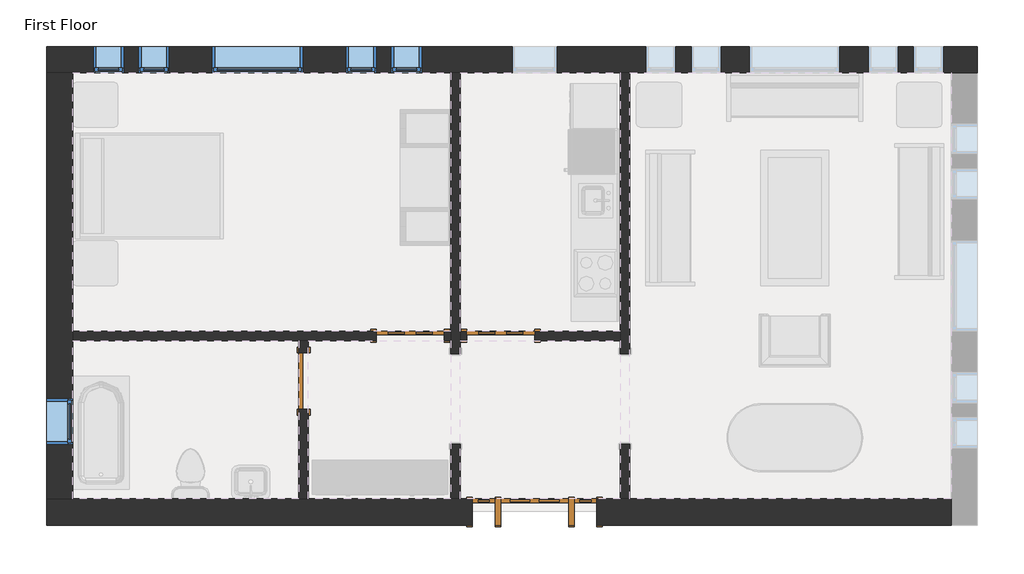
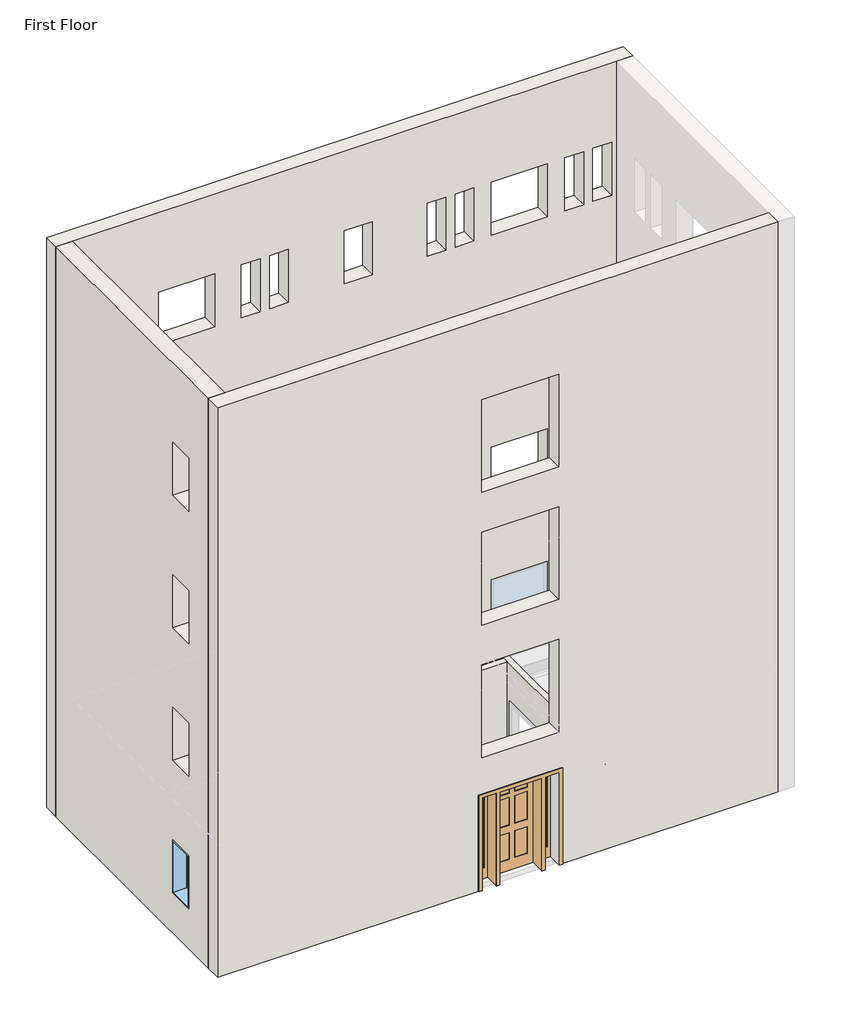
# One storey, part 1 of 2: 8 walls, 6 windows, 4 doors.
"""IFC4 building model written with IfcOpenShell, lengths in millimetres."""

from ifc_helpers import new_model, si_unit, frame, origin, place, context, project, spatial, polyline, outline, extrude, faceted_brep, transform, mapped, element, save
from components import door_829da954, door_2e3b4da2, door_4d6c7550, door_dba5aa2e, window_da97879f, window_d61ef850, window_60baf983, window_6eb97611

model = new_model("IFC4")

# Units and contexts
model_context = context("Model", 3, world=origin())
ifc_project = project(units=[si_unit("LENGTHUNIT", "METRE", prefix="MILLI")], contexts=[model_context])

# Site, building, storey
site = spatial("IfcSite", under=ifc_project)
building = spatial("IfcBuilding", under=site)
storey = spatial("IfcBuildingStorey", under=building, Name="First Floor", Elevation=0.0)

# Doors
placement = place(None, origin())
door_shape = door_829da954(model_context)
element("IfcDoor", 1, ObjectType="Single-Decorative 2 : 36\" x 84\"", at=placement, inside=storey, context=model_context, shape_type="MappedRepresentation", body=[
    mapped(door_shape, transform((-5449.8589563, 6723.5441867, 0.0), x_axis=(-1.0, 0.0, 0.0), y_axis=(0.0, -1.0, 0.0), z_axis=(0.0, 0.0, 1.0))),
])
door_2_shape = door_2e3b4da2(model_context)
element("IfcDoor", 2, ObjectType="Single-Decorative 2 : 36\" x 84\"", at=placement, inside=storey, context=model_context, shape_type="MappedRepresentation", body=[
    mapped(door_2_shape, transform((-6669.0589563, 6723.5441867, 0.0), x_axis=(1.0, 0.0, 0.0), y_axis=(0.0, 1.0, 0.0), z_axis=(0.0, 0.0, 1.0))),
])
door_3_shape = door_4d6c7550(model_context)
element("IfcDoor", 3, ObjectType="Single-Flush : 30\" x 84\"", at=placement, inside=storey, context=model_context, shape_type="MappedRepresentation", body=[
    mapped(door_3_shape, transform((-8105.7464563, 6113.9441867, 0.0), x_axis=(0.0, 1.0, 0.0), y_axis=(-1.0, 0.0, 0.0), z_axis=(0.0, 0.0, 1.0))),
])
door_4_shape = door_dba5aa2e(model_context)
element("IfcDoor", 4, ObjectType="Single-Raised Panel with Sidelights : 36\" x 84\"", at=placement, inside=storey, context=model_context, shape_type="MappedRepresentation", body=[
    mapped(door_4_shape, transform((-4992.6589563, 4350.2316867, 0.0), x_axis=(-1.0, 0.0, 0.0), y_axis=(0.0, -1.0, 0.0), z_axis=(0.0, 0.0, 1.0))),
])

# Walls
element("IfcWall", 5, ObjectType="Exterior - Brick on Mtl. Stud", at=placement, inside=storey, context=model_context, shape_type="Brep", body=[
    faceted_brep([(-11569.6714563, 10270.0191867, 13106.4), (-11217.2464563, 10270.0191867, 13106.4), (622.3285437, 10270.0191867, 13106.4), (974.7535437, 10270.0191867, 13106.4), (974.7535437, 10622.4441867, 13106.4), (-11569.6714563, 10622.4441867, 13106.4), (-11569.6714563, 10270.0191867, 0.0), (-11382.3464563, 10270.0191867, 0.0), (-11217.2464563, 10270.0191867, 0.0), (-6122.9589563, 10270.0191867, 0.0), (-5995.9589563, 10270.0191867, 0.0), (-3836.9589563, 10270.0191867, 0.0), (-3709.9589563, 10270.0191867, 0.0), (622.3285437, 10270.0191867, 0.0), (787.4285437, 10270.0191867, 0.0), (974.7535437, 10270.0191867, 0.0), (-5297.4589563, 10270.0191867, 2133.6), (-4687.8589563, 10270.0191867, 2133.6), (-4687.8589563, 10270.0191867, 914.4), (-5297.4589563, 10270.0191867, 914.4), (-9336.0589563, 10270.0191867, 2133.6), (-8116.8589563, 10270.0191867, 2133.6), (-8116.8589563, 10270.0191867, 914.4), (-9336.0589563, 10270.0191867, 914.4), (-2097.0589563, 10270.0191867, 2133.6), (-877.8589563, 10270.0191867, 2133.6), (-877.8589563, 10270.0191867, 914.4), (-2097.0589563, 10270.0191867, 914.4), (-10936.2589563, 10270.0191867, 2133.6), (-10529.8589563, 10270.0191867, 2133.6), (-10529.8589563, 10270.0191867, 914.4), (-10936.2589563, 10270.0191867, 914.4), (-10326.6589563, 10270.0191867, 2133.6), (-9920.2589563, 10270.0191867, 2133.6), (-9920.2589563, 10270.0191867, 914.4), (-10326.6589563, 10270.0191867, 914.4), (-6516.6589563, 10270.0191867, 2133.6), (-6516.6589563, 10270.0191867, 914.4), (-6923.0589563, 10270.0191867, 914.4), (-6923.0589563, 10270.0191867, 2133.6), (-7126.2589563, 10270.0191867, 2133.6), (-7126.2589563, 10270.0191867, 914.4), (-7532.6589563, 10270.0191867, 914.4), (-7532.6589563, 10270.0191867, 2133.6), (-3494.0589563, 10270.0191867, 2133.6), (-3087.6589563, 10270.0191867, 2133.6), (-3087.6589563, 10270.0191867, 914.4), (-3494.0589563, 10270.0191867, 914.4), (-2884.4589563, 10270.0191867, 2133.6), (-2478.0589563, 10270.0191867, 2133.6), (-2478.0589563, 10270.0191867, 914.4), (-2884.4589563, 10270.0191867, 914.4), (519.1410437, 10270.0191867, 2133.6), (519.1410437, 10270.0191867, 914.4), (112.7410437, 10270.0191867, 914.4), (112.7410437, 10270.0191867, 2133.6), (-90.4589563, 10270.0191867, 2133.6), (-90.4589563, 10270.0191867, 914.4), (-496.8589563, 10270.0191867, 914.4), (-496.8589563, 10270.0191867, 2133.6), (-90.4589563, 10270.0191867, 11277.6), (-90.4589563, 10270.0191867, 10058.4), (-496.8589563, 10270.0191867, 10058.4), (-496.8589563, 10270.0191867, 11277.6), (519.1410437, 10270.0191867, 11277.6), (519.1410437, 10270.0191867, 10058.4), (112.7410437, 10270.0191867, 10058.4), (112.7410437, 10270.0191867, 11277.6), (-2884.4589563, 10270.0191867, 11277.6), (-2478.0589563, 10270.0191867, 11277.6), (-2478.0589563, 10270.0191867, 10058.4), (-2884.4589563, 10270.0191867, 10058.4), (-3494.0589563, 10270.0191867, 11277.6), (-3087.6589563, 10270.0191867, 11277.6), (-3087.6589563, 10270.0191867, 10058.4), (-3494.0589563, 10270.0191867, 10058.4), (-7126.2589563, 10270.0191867, 11277.6), (-7126.2589563, 10270.0191867, 10058.4), (-7532.6589563, 10270.0191867, 10058.4), (-7532.6589563, 10270.0191867, 11277.6), (-6516.6589563, 10270.0191867, 11277.6), (-6516.6589563, 10270.0191867, 10058.4), (-6923.0589563, 10270.0191867, 10058.4), (-6923.0589563, 10270.0191867, 11277.6), (-10326.6589563, 10270.0191867, 11277.6), (-9920.2589563, 10270.0191867, 11277.6), (-9920.2589563, 10270.0191867, 10058.4), (-10326.6589563, 10270.0191867, 10058.4), (-10936.2589563, 10270.0191867, 11277.6), (-10529.8589563, 10270.0191867, 11277.6), (-10529.8589563, 10270.0191867, 10058.4), (-10936.2589563, 10270.0191867, 10058.4), (-2097.0589563, 10270.0191867, 11277.6), (-877.8589563, 10270.0191867, 11277.6), (-877.8589563, 10270.0191867, 10058.4), (-2097.0589563, 10270.0191867, 10058.4), (-9336.0589563, 10270.0191867, 11277.6), (-8116.8589563, 10270.0191867, 11277.6), (-8116.8589563, 10270.0191867, 10058.4), (-9336.0589563, 10270.0191867, 10058.4), (-5297.4589563, 10270.0191867, 11277.6), (-4687.8589563, 10270.0191867, 11277.6), (-4687.8589563, 10270.0191867, 10058.4), (-5297.4589563, 10270.0191867, 10058.4), (-90.4589563, 10270.0191867, 5181.6), (-90.4589563, 10270.0191867, 3962.4), (-496.8589563, 10270.0191867, 3962.4), (-496.8589563, 10270.0191867, 5181.6), (519.1410437, 10270.0191867, 5181.6), (519.1410437, 10270.0191867, 3962.4), (112.7410437, 10270.0191867, 3962.4), (112.7410437, 10270.0191867, 5181.6), (-2884.4589563, 10270.0191867, 5181.6), (-2478.0589563, 10270.0191867, 5181.6), (-2478.0589563, 10270.0191867, 3962.4), (-2884.4589563, 10270.0191867, 3962.4), (-3494.0589563, 10270.0191867, 5181.6), (-3087.6589563, 10270.0191867, 5181.6), (-3087.6589563, 10270.0191867, 3962.4), (-3494.0589563, 10270.0191867, 3962.4), (-7126.2589563, 10270.0191867, 5181.6), (-7126.2589563, 10270.0191867, 3962.4), (-7532.6589563, 10270.0191867, 3962.4), (-7532.6589563, 10270.0191867, 5181.6), (-6516.6589563, 10270.0191867, 5181.6), (-6516.6589563, 10270.0191867, 3962.4), (-6923.0589563, 10270.0191867, 3962.4), (-6923.0589563, 10270.0191867, 5181.6), (-10326.6589563, 10270.0191867, 5181.6), (-9920.2589563, 10270.0191867, 5181.6), (-9920.2589563, 10270.0191867, 3962.4), (-10326.6589563, 10270.0191867, 3962.4), (-10936.2589563, 10270.0191867, 5181.6), (-10529.8589563, 10270.0191867, 5181.6), (-10529.8589563, 10270.0191867, 3962.4), (-10936.2589563, 10270.0191867, 3962.4), (-2097.0589563, 10270.0191867, 5181.6), (-877.8589563, 10270.0191867, 5181.6), (-877.8589563, 10270.0191867, 3962.4), (-2097.0589563, 10270.0191867, 3962.4), (-9336.0589563, 10270.0191867, 5181.6), (-8116.8589563, 10270.0191867, 5181.6), (-8116.8589563, 10270.0191867, 3962.4), (-9336.0589563, 10270.0191867, 3962.4), (-5297.4589563, 10270.0191867, 5181.6), (-4687.8589563, 10270.0191867, 5181.6), (-4687.8589563, 10270.0191867, 3962.4), (-5297.4589563, 10270.0191867, 3962.4), (-90.4589563, 10270.0191867, 8229.6), (-90.4589563, 10270.0191867, 7010.4), (-496.8589563, 10270.0191867, 7010.4), (-496.8589563, 10270.0191867, 8229.6), (519.1410437, 10270.0191867, 8229.6), (519.1410437, 10270.0191867, 7010.4), (112.7410437, 10270.0191867, 7010.4), (112.7410437, 10270.0191867, 8229.6), (-2884.4589563, 10270.0191867, 8229.6), (-2478.0589563, 10270.0191867, 8229.6), (-2478.0589563, 10270.0191867, 7010.4), (-2884.4589563, 10270.0191867, 7010.4), (-3494.0589563, 10270.0191867, 8229.6), (-3087.6589563, 10270.0191867, 8229.6), (-3087.6589563, 10270.0191867, 7010.4), (-3494.0589563, 10270.0191867, 7010.4), (-7126.2589563, 10270.0191867, 8229.6), (-7126.2589563, 10270.0191867, 7010.4), (-7532.6589563, 10270.0191867, 7010.4), (-7532.6589563, 10270.0191867, 8229.6), (-6516.6589563, 10270.0191867, 8229.6), (-6516.6589563, 10270.0191867, 7010.4), (-6923.0589563, 10270.0191867, 7010.4), (-6923.0589563, 10270.0191867, 8229.6), (-10326.6589563, 10270.0191867, 8229.6), (-9920.2589563, 10270.0191867, 8229.6), (-9920.2589563, 10270.0191867, 7010.4), (-10326.6589563, 10270.0191867, 7010.4), (-10936.2589563, 10270.0191867, 8229.6), (-10529.8589563, 10270.0191867, 8229.6), (-10529.8589563, 10270.0191867, 7010.4), (-10936.2589563, 10270.0191867, 7010.4), (-2097.0589563, 10270.0191867, 8229.6), (-877.8589563, 10270.0191867, 8229.6), (-877.8589563, 10270.0191867, 7010.4), (-2097.0589563, 10270.0191867, 7010.4), (-9336.0589563, 10270.0191867, 8229.6), (-8116.8589563, 10270.0191867, 8229.6), (-8116.8589563, 10270.0191867, 7010.4), (-9336.0589563, 10270.0191867, 7010.4), (-5297.4589563, 10270.0191867, 8229.6), (-4687.8589563, 10270.0191867, 8229.6), (-4687.8589563, 10270.0191867, 7010.4), (-5297.4589563, 10270.0191867, 7010.4), (-11569.6714563, 10622.4441867, 0.0), (974.7535437, 10622.4441867, 0.0), (787.4285437, 10622.4441867, 0.0), (-11382.3464563, 10622.4441867, 0.0), (-5297.4589563, 10622.4441867, 2133.6), (-5297.4589563, 10622.4441867, 914.4), (-4687.8589563, 10622.4441867, 914.4), (-4687.8589563, 10622.4441867, 2133.6), (-9336.0589563, 10622.4441867, 2133.6), (-9336.0589563, 10622.4441867, 914.4), (-8116.8589563, 10622.4441867, 914.4), (-8116.8589563, 10622.4441867, 2133.6), (-2097.0589563, 10622.4441867, 2133.6), (-2097.0589563, 10622.4441867, 914.4), (-877.8589563, 10622.4441867, 914.4), (-877.8589563, 10622.4441867, 2133.6), (-10936.2589563, 10622.4441867, 2133.6), (-10936.2589563, 10622.4441867, 914.4), (-10529.8589563, 10622.4441867, 914.4), (-10529.8589563, 10622.4441867, 2133.6), (-10326.6589563, 10622.4441867, 2133.6), (-10326.6589563, 10622.4441867, 914.4), (-9920.2589563, 10622.4441867, 914.4), (-9920.2589563, 10622.4441867, 2133.6), (-6516.6589563, 10622.4441867, 2133.6), (-6923.0589563, 10622.4441867, 2133.6), (-6923.0589563, 10622.4441867, 914.4), (-6516.6589563, 10622.4441867, 914.4), (-7126.2589563, 10622.4441867, 2133.6), (-7532.6589563, 10622.4441867, 2133.6), (-7532.6589563, 10622.4441867, 914.4), (-7126.2589563, 10622.4441867, 914.4), (-3494.0589563, 10622.4441867, 2133.6), (-3494.0589563, 10622.4441867, 914.4), (-3087.6589563, 10622.4441867, 914.4), (-3087.6589563, 10622.4441867, 2133.6), (-2884.4589563, 10622.4441867, 2133.6), (-2884.4589563, 10622.4441867, 914.4), (-2478.0589563, 10622.4441867, 914.4), (-2478.0589563, 10622.4441867, 2133.6), (519.1410437, 10622.4441867, 2133.6), (112.7410437, 10622.4441867, 2133.6), (112.7410437, 10622.4441867, 914.4), (519.1410437, 10622.4441867, 914.4), (-90.4589563, 10622.4441867, 2133.6), (-496.8589563, 10622.4441867, 2133.6), (-496.8589563, 10622.4441867, 914.4), (-90.4589563, 10622.4441867, 914.4), (-90.4589563, 10622.4441867, 11277.6), (-496.8589563, 10622.4441867, 11277.6), (-496.8589563, 10622.4441867, 10058.4), (-90.4589563, 10622.4441867, 10058.4), (519.1410437, 10622.4441867, 11277.6), (112.7410437, 10622.4441867, 11277.6), (112.7410437, 10622.4441867, 10058.4), (519.1410437, 10622.4441867, 10058.4), (-2884.4589563, 10622.4441867, 11277.6), (-2884.4589563, 10622.4441867, 10058.4), (-2478.0589563, 10622.4441867, 10058.4), (-2478.0589563, 10622.4441867, 11277.6), (-3494.0589563, 10622.4441867, 11277.6), (-3494.0589563, 10622.4441867, 10058.4), (-3087.6589563, 10622.4441867, 10058.4), (-3087.6589563, 10622.4441867, 11277.6), (-7126.2589563, 10622.4441867, 11277.6), (-7532.6589563, 10622.4441867, 11277.6), (-7532.6589563, 10622.4441867, 10058.4), (-7126.2589563, 10622.4441867, 10058.4), (-6516.6589563, 10622.4441867, 11277.6), (-6923.0589563, 10622.4441867, 11277.6), (-6923.0589563, 10622.4441867, 10058.4), (-6516.6589563, 10622.4441867, 10058.4), (-10326.6589563, 10622.4441867, 11277.6), (-10326.6589563, 10622.4441867, 10058.4), (-9920.2589563, 10622.4441867, 10058.4), (-9920.2589563, 10622.4441867, 11277.6), (-10936.2589563, 10622.4441867, 11277.6), (-10936.2589563, 10622.4441867, 10058.4), (-10529.8589563, 10622.4441867, 10058.4), (-10529.8589563, 10622.4441867, 11277.6), (-2097.0589563, 10622.4441867, 11277.6), (-2097.0589563, 10622.4441867, 10058.4), (-877.8589563, 10622.4441867, 10058.4), (-877.8589563, 10622.4441867, 11277.6), (-9336.0589563, 10622.4441867, 11277.6), (-9336.0589563, 10622.4441867, 10058.4), (-8116.8589563, 10622.4441867, 10058.4), (-8116.8589563, 10622.4441867, 11277.6), (-5297.4589563, 10622.4441867, 11277.6), (-5297.4589563, 10622.4441867, 10058.4), (-4687.8589563, 10622.4441867, 10058.4), (-4687.8589563, 10622.4441867, 11277.6), (-90.4589563, 10622.4441867, 5181.6), (-496.8589563, 10622.4441867, 5181.6), (-496.8589563, 10622.4441867, 3962.4), (-90.4589563, 10622.4441867, 3962.4), (519.1410437, 10622.4441867, 5181.6), (112.7410437, 10622.4441867, 5181.6), (112.7410437, 10622.4441867, 3962.4), (519.1410437, 10622.4441867, 3962.4), (-2884.4589563, 10622.4441867, 5181.6), (-2884.4589563, 10622.4441867, 3962.4), (-2478.0589563, 10622.4441867, 3962.4), (-2478.0589563, 10622.4441867, 5181.6), (-3494.0589563, 10622.4441867, 5181.6), (-3494.0589563, 10622.4441867, 3962.4), (-3087.6589563, 10622.4441867, 3962.4), (-3087.6589563, 10622.4441867, 5181.6), (-7126.2589563, 10622.4441867, 5181.6), (-7532.6589563, 10622.4441867, 5181.6), (-7532.6589563, 10622.4441867, 3962.4), (-7126.2589563, 10622.4441867, 3962.4), (-6516.6589563, 10622.4441867, 5181.6), (-6923.0589563, 10622.4441867, 5181.6), (-6923.0589563, 10622.4441867, 3962.4), (-6516.6589563, 10622.4441867, 3962.4), (-10326.6589563, 10622.4441867, 5181.6), (-10326.6589563, 10622.4441867, 3962.4), (-9920.2589563, 10622.4441867, 3962.4), (-9920.2589563, 10622.4441867, 5181.6), (-10936.2589563, 10622.4441867, 5181.6), (-10936.2589563, 10622.4441867, 3962.4), (-10529.8589563, 10622.4441867, 3962.4), (-10529.8589563, 10622.4441867, 5181.6), (-2097.0589563, 10622.4441867, 5181.6), (-2097.0589563, 10622.4441867, 3962.4), (-877.8589563, 10622.4441867, 3962.4), (-877.8589563, 10622.4441867, 5181.6), (-9336.0589563, 10622.4441867, 5181.6), (-9336.0589563, 10622.4441867, 3962.4), (-8116.8589563, 10622.4441867, 3962.4), (-8116.8589563, 10622.4441867, 5181.6), (-5297.4589563, 10622.4441867, 5181.6), (-5297.4589563, 10622.4441867, 3962.4), (-4687.8589563, 10622.4441867, 3962.4), (-4687.8589563, 10622.4441867, 5181.6), (-90.4589563, 10622.4441867, 8229.6), (-496.8589563, 10622.4441867, 8229.6), (-496.8589563, 10622.4441867, 7010.4), (-90.4589563, 10622.4441867, 7010.4), (519.1410437, 10622.4441867, 8229.6), (112.7410437, 10622.4441867, 8229.6), (112.7410437, 10622.4441867, 7010.4), (519.1410437, 10622.4441867, 7010.4), (-2884.4589563, 10622.4441867, 8229.6), (-2884.4589563, 10622.4441867, 7010.4), (-2478.0589563, 10622.4441867, 7010.4), (-2478.0589563, 10622.4441867, 8229.6), (-3494.0589563, 10622.4441867, 8229.6), (-3494.0589563, 10622.4441867, 7010.4), (-3087.6589563, 10622.4441867, 7010.4), (-3087.6589563, 10622.4441867, 8229.6), (-7126.2589563, 10622.4441867, 8229.6), (-7532.6589563, 10622.4441867, 8229.6), (-7532.6589563, 10622.4441867, 7010.4), (-7126.2589563, 10622.4441867, 7010.4), (-6516.6589563, 10622.4441867, 8229.6), (-6923.0589563, 10622.4441867, 8229.6), (-6923.0589563, 10622.4441867, 7010.4), (-6516.6589563, 10622.4441867, 7010.4), (-10326.6589563, 10622.4441867, 8229.6), (-10326.6589563, 10622.4441867, 7010.4), (-9920.2589563, 10622.4441867, 7010.4), (-9920.2589563, 10622.4441867, 8229.6), (-10936.2589563, 10622.4441867, 8229.6), (-10936.2589563, 10622.4441867, 7010.4), (-10529.8589563, 10622.4441867, 7010.4), (-10529.8589563, 10622.4441867, 8229.6), (-2097.0589563, 10622.4441867, 8229.6), (-2097.0589563, 10622.4441867, 7010.4), (-877.8589563, 10622.4441867, 7010.4), (-877.8589563, 10622.4441867, 8229.6), (-9336.0589563, 10622.4441867, 8229.6), (-9336.0589563, 10622.4441867, 7010.4), (-8116.8589563, 10622.4441867, 7010.4), (-8116.8589563, 10622.4441867, 8229.6), (-5297.4589563, 10622.4441867, 8229.6), (-5297.4589563, 10622.4441867, 7010.4), (-4687.8589563, 10622.4441867, 7010.4), (-4687.8589563, 10622.4441867, 8229.6), (974.7535437, 10435.1191867, 0.0), (-11569.6714563, 10435.1191867, 0.0), (-11382.3464563, 10435.1191867, 0.0), (787.4285437, 10435.1191867, 0.0)], [[[0, 1, 2, 3, 4, 5]], [[6, 7, 8, 9, 10, 11, 12, 13, 14, 15, 3, 2, 1, 0], [16, 17, 18, 19], [20, 21, 22, 23], [24, 25, 26, 27], [28, 29, 30, 31], [32, 33, 34, 35], [36, 37, 38, 39], [40, 41, 42, 43], [44, 45, 46, 47], [48, 49, 50, 51], [52, 53, 54, 55], [56, 57, 58, 59], [60, 61, 62, 63], [64, 65, 66, 67], [68, 69, 70, 71], [72, 73, 74, 75], [76, 77, 78, 79], [80, 81, 82, 83], [84, 85, 86, 87], [88, 89, 90, 91], [92, 93, 94, 95], [96, 97, 98, 99], [100, 101, 102, 103], [104, 105, 106, 107], [108, 109, 110, 111], [112, 113, 114, 115], [116, 117, 118, 119], [120, 121, 122, 123], [124, 125, 126, 127], [128, 129, 130, 131], [132, 133, 134, 135], [136, 137, 138, 139], [140, 141, 142, 143], [144, 145, 146, 147], [148, 149, 150, 151], [152, 153, 154, 155], [156, 157, 158, 159], [160, 161, 162, 163], [164, 165, 166, 167], [168, 169, 170, 171], [172, 173, 174, 175], [176, 177, 178, 179], [180, 181, 182, 183], [184, 185, 186, 187], [188, 189, 190, 191]], [[192, 5, 4, 193, 194, 195], [196, 197, 198, 199], [200, 201, 202, 203], [204, 205, 206, 207], [208, 209, 210, 211], [212, 213, 214, 215], [216, 217, 218, 219], [220, 221, 222, 223], [224, 225, 226, 227], [228, 229, 230, 231], [232, 233, 234, 235], [236, 237, 238, 239], [240, 241, 242, 243], [244, 245, 246, 247], [248, 249, 250, 251], [252, 253, 254, 255], [256, 257, 258, 259], [260, 261, 262, 263], [264, 265, 266, 267], [268, 269, 270, 271], [272, 273, 274, 275], [276, 277, 278, 279], [280, 281, 282, 283], [284, 285, 286, 287], [288, 289, 290, 291], [292, 293, 294, 295], [296, 297, 298, 299], [300, 301, 302, 303], [304, 305, 306, 307], [308, 309, 310, 311], [312, 313, 314, 315], [316, 317, 318, 319], [320, 321, 322, 323], [324, 325, 326, 327], [328, 329, 330, 331], [332, 333, 334, 335], [336, 337, 338, 339], [340, 341, 342, 343], [344, 345, 346, 347], [348, 349, 350, 351], [352, 353, 354, 355], [356, 357, 358, 359], [360, 361, 362, 363], [364, 365, 366, 367], [368, 369, 370, 371]], [[3, 15, 372, 193, 4]], [[6, 0, 5, 192, 373]], [[197, 196, 16, 19]], [[198, 197, 19, 18]], [[199, 198, 18, 17]], [[196, 199, 17, 16]], [[201, 200, 20, 23]], [[202, 201, 23, 22]], [[203, 202, 22, 21]], [[200, 203, 21, 20]], [[205, 204, 24, 27]], [[206, 205, 27, 26]], [[207, 206, 26, 25]], [[204, 207, 25, 24]], [[209, 208, 28, 31]], [[210, 209, 31, 30]], [[211, 210, 30, 29]], [[208, 211, 29, 28]], [[213, 212, 32, 35]], [[214, 213, 35, 34]], [[215, 214, 34, 33]], [[212, 215, 33, 32]], [[37, 36, 216, 219]], [[38, 37, 219, 218]], [[39, 38, 218, 217]], [[36, 39, 217, 216]], [[41, 40, 220, 223]], [[42, 41, 223, 222]], [[43, 42, 222, 221]], [[40, 43, 221, 220]], [[225, 224, 44, 47]], [[226, 225, 47, 46]], [[227, 226, 46, 45]], [[224, 227, 45, 44]], [[229, 228, 48, 51]], [[230, 229, 51, 50]], [[231, 230, 50, 49]], [[228, 231, 49, 48]], [[53, 52, 232, 235]], [[54, 53, 235, 234]], [[55, 54, 234, 233]], [[52, 55, 233, 232]], [[57, 56, 236, 239]], [[58, 57, 239, 238]], [[59, 58, 238, 237]], [[56, 59, 237, 236]], [[7, 6, 373, 374]], [[373, 192, 195, 374]], [[15, 14, 375, 372]], [[195, 194, 375, 374]], [[194, 193, 372, 375]], [[14, 13, 12, 11, 10, 9, 8, 7, 374, 375]], [[61, 60, 240, 243]], [[62, 61, 243, 242]], [[63, 62, 242, 241]], [[60, 63, 241, 240]], [[65, 64, 244, 247]], [[66, 65, 247, 246]], [[67, 66, 246, 245]], [[64, 67, 245, 244]], [[249, 248, 68, 71]], [[250, 249, 71, 70]], [[251, 250, 70, 69]], [[248, 251, 69, 68]], [[253, 252, 72, 75]], [[254, 253, 75, 74]], [[255, 254, 74, 73]], [[252, 255, 73, 72]], [[77, 76, 256, 259]], [[78, 77, 259, 258]], [[79, 78, 258, 257]], [[76, 79, 257, 256]], [[81, 80, 260, 263]], [[82, 81, 263, 262]], [[83, 82, 262, 261]], [[80, 83, 261, 260]], [[265, 264, 84, 87]], [[266, 265, 87, 86]], [[267, 266, 86, 85]], [[264, 267, 85, 84]], [[269, 268, 88, 91]], [[270, 269, 91, 90]], [[271, 270, 90, 89]], [[268, 271, 89, 88]], [[273, 272, 92, 95]], [[274, 273, 95, 94]], [[275, 274, 94, 93]], [[272, 275, 93, 92]], [[277, 276, 96, 99]], [[278, 277, 99, 98]], [[279, 278, 98, 97]], [[276, 279, 97, 96]], [[281, 280, 100, 103]], [[282, 281, 103, 102]], [[283, 282, 102, 101]], [[280, 283, 101, 100]], [[105, 104, 284, 287]], [[106, 105, 287, 286]], [[107, 106, 286, 285]], [[104, 107, 285, 284]], [[109, 108, 288, 291]], [[110, 109, 291, 290]], [[111, 110, 290, 289]], [[108, 111, 289, 288]], [[293, 292, 112, 115]], [[294, 293, 115, 114]], [[295, 294, 114, 113]], [[292, 295, 113, 112]], [[297, 296, 116, 119]], [[298, 297, 119, 118]], [[299, 298, 118, 117]], [[296, 299, 117, 116]], [[121, 120, 300, 303]], [[122, 121, 303, 302]], [[123, 122, 302, 301]], [[120, 123, 301, 300]], [[125, 124, 304, 307]], [[126, 125, 307, 306]], [[127, 126, 306, 305]], [[124, 127, 305, 304]], [[309, 308, 128, 131]], [[310, 309, 131, 130]], [[311, 310, 130, 129]], [[308, 311, 129, 128]], [[313, 312, 132, 135]], [[314, 313, 135, 134]], [[315, 314, 134, 133]], [[312, 315, 133, 132]], [[317, 316, 136, 139]], [[318, 317, 139, 138]], [[319, 318, 138, 137]], [[316, 319, 137, 136]], [[321, 320, 140, 143]], [[322, 321, 143, 142]], [[323, 322, 142, 141]], [[320, 323, 141, 140]], [[325, 324, 144, 147]], [[326, 325, 147, 146]], [[327, 326, 146, 145]], [[324, 327, 145, 144]], [[149, 148, 328, 331]], [[150, 149, 331, 330]], [[151, 150, 330, 329]], [[148, 151, 329, 328]], [[153, 152, 332, 335]], [[154, 153, 335, 334]], [[155, 154, 334, 333]], [[152, 155, 333, 332]], [[337, 336, 156, 159]], [[338, 337, 159, 158]], [[339, 338, 158, 157]], [[336, 339, 157, 156]], [[341, 340, 160, 163]], [[342, 341, 163, 162]], [[343, 342, 162, 161]], [[340, 343, 161, 160]], [[165, 164, 344, 347]], [[166, 165, 347, 346]], [[167, 166, 346, 345]], [[164, 167, 345, 344]], [[169, 168, 348, 351]], [[170, 169, 351, 350]], [[171, 170, 350, 349]], [[168, 171, 349, 348]], [[353, 352, 172, 175]], [[354, 353, 175, 174]], [[355, 354, 174, 173]], [[352, 355, 173, 172]], [[357, 356, 176, 179]], [[358, 357, 179, 178]], [[359, 358, 178, 177]], [[356, 359, 177, 176]], [[361, 360, 180, 183]], [[362, 361, 183, 182]], [[363, 362, 182, 181]], [[360, 363, 181, 180]], [[365, 364, 184, 187]], [[366, 365, 187, 186]], [[367, 366, 186, 185]], [[364, 367, 185, 184]], [[369, 368, 188, 191]], [[370, 369, 191, 190]], [[371, 370, 190, 189]], [[368, 371, 189, 188]]]),
])
element("IfcWall", 6, ObjectType="Exterior - Brick on Mtl. Stud", at=placement, inside=storey, context=model_context, shape_type="Brep", body=[
    faceted_brep([(-11569.6714563, 4526.4441867, 0.0), (-11217.2464563, 4526.4441867, 0.0), (-8169.2464563, 4526.4441867, 0.0), (-8042.2464563, 4526.4441867, 0.0), (-6122.9589563, 4526.4441867, 0.0), (-5995.9589563, 4526.4441867, 0.0), (-5830.8589563, 4526.4441867, 0.0), (-5830.8589563, 4174.0191867, 0.0), (-11569.6714563, 4174.0191867, 0.0), (-4154.4589563, 4526.4441867, 0.0), (-3836.9589563, 4526.4441867, 0.0), (-3709.9589563, 4526.4441867, 0.0), (622.3285437, 4526.4441867, 0.0), (622.3285437, 4174.0191867, 0.0), (-4154.4589563, 4174.0191867, 0.0), (622.3285437, 4526.4441867, 13106.4), (-11217.2464563, 4526.4441867, 13106.4), (-11569.6714563, 4526.4441867, 13106.4), (-11569.6714563, 4174.0191867, 13106.4), (622.3285437, 4174.0191867, 13106.4), (-5830.8589563, 4526.4441867, 2133.6), (-4154.4589563, 4526.4441867, 2133.6), (-4154.4589563, 4526.4441867, 9144.0), (-4154.4589563, 4526.4441867, 11277.6), (-5830.8589563, 4526.4441867, 11277.6), (-5830.8589563, 4526.4441867, 9144.0), (-4154.4589563, 4526.4441867, 3048.0), (-4154.4589563, 4526.4441867, 5181.6), (-5830.8589563, 4526.4441867, 5181.6), (-5830.8589563, 4526.4441867, 3048.0), (-4154.4589563, 4526.4441867, 6096.0), (-4154.4589563, 4526.4441867, 8229.6), (-5830.8589563, 4526.4441867, 8229.6), (-5830.8589563, 4526.4441867, 6096.0), (-5830.8589563, 4174.0191867, 2133.6), (-4154.4589563, 4174.0191867, 2133.6), (-4154.4589563, 4174.0191867, 9144.0), (-5830.8589563, 4174.0191867, 9144.0), (-5830.8589563, 4174.0191867, 11277.6), (-4154.4589563, 4174.0191867, 11277.6), (-4154.4589563, 4174.0191867, 3048.0), (-5830.8589563, 4174.0191867, 3048.0), (-5830.8589563, 4174.0191867, 5181.6), (-4154.4589563, 4174.0191867, 5181.6), (-4154.4589563, 4174.0191867, 6096.0), (-5830.8589563, 4174.0191867, 6096.0), (-5830.8589563, 4174.0191867, 8229.6), (-4154.4589563, 4174.0191867, 8229.6)], [[[0, 1, 2, 3, 4, 5, 6, 7, 8]], [[9, 10, 11, 12, 13, 14]], [[15, 16, 17, 18, 19]], [[20, 6, 5, 4, 3, 2, 1, 0, 17, 16, 15, 12, 11, 10, 9, 21], [22, 23, 24, 25], [26, 27, 28, 29], [30, 31, 32, 33]], [[8, 7, 34, 35, 14, 13, 19, 18], [36, 37, 38, 39], [40, 41, 42, 43], [44, 45, 46, 47]], [[12, 15, 19, 13]], [[17, 0, 8, 18]], [[34, 7, 6, 20]], [[35, 34, 20, 21]], [[14, 35, 21, 9]], [[37, 36, 22, 25]], [[38, 37, 25, 24]], [[39, 38, 24, 23]], [[36, 39, 23, 22]], [[41, 40, 26, 29]], [[42, 41, 29, 28]], [[43, 42, 28, 27]], [[40, 43, 27, 26]], [[45, 44, 30, 33]], [[46, 45, 33, 32]], [[47, 46, 32, 31]], [[44, 47, 31, 30]]]),
])
element("IfcWall", 7, ObjectType="Exterior - Brick on Mtl. Stud", at=placement, inside=storey, context=model_context, shape_type="Brep", body=[
    faceted_brep([(-11217.2464563, 4526.4441867, 13106.4), (-11217.2464563, 10270.0191867, 13106.4), (-11569.6714563, 10270.0191867, 13106.4), (-11569.6714563, 4526.4441867, 13106.4), (-11217.2464563, 4526.4441867, 0.0), (-11217.2464563, 6660.0441867, 0.0), (-11217.2464563, 6787.0441867, 0.0), (-11217.2464563, 10270.0191867, 0.0), (-11217.2464563, 5264.6316867, 2133.6), (-11217.2464563, 5874.2316867, 2133.6), (-11217.2464563, 5874.2316867, 914.4), (-11217.2464563, 5264.6316867, 914.4), (-11217.2464563, 5264.6316867, 11277.6), (-11217.2464563, 5874.2316867, 11277.6), (-11217.2464563, 5874.2316867, 10058.4), (-11217.2464563, 5264.6316867, 10058.4), (-11217.2464563, 5264.6316867, 5181.6), (-11217.2464563, 5874.2316867, 5181.6), (-11217.2464563, 5874.2316867, 3962.4), (-11217.2464563, 5264.6316867, 3962.4), (-11217.2464563, 5264.6316867, 8229.6), (-11217.2464563, 5874.2316867, 8229.6), (-11217.2464563, 5874.2316867, 7010.4), (-11217.2464563, 5264.6316867, 7010.4), (-11569.6714563, 4526.4441867, 0.0), (-11569.6714563, 10270.0191867, 0.0), (-11569.6714563, 5264.6316867, 2133.6), (-11569.6714563, 5264.6316867, 914.4), (-11569.6714563, 5874.2316867, 914.4), (-11569.6714563, 5874.2316867, 2133.6), (-11569.6714563, 5264.6316867, 11277.6), (-11569.6714563, 5264.6316867, 10058.4), (-11569.6714563, 5874.2316867, 10058.4), (-11569.6714563, 5874.2316867, 11277.6), (-11569.6714563, 5264.6316867, 5181.6), (-11569.6714563, 5264.6316867, 3962.4), (-11569.6714563, 5874.2316867, 3962.4), (-11569.6714563, 5874.2316867, 5181.6), (-11569.6714563, 5264.6316867, 8229.6), (-11569.6714563, 5264.6316867, 7010.4), (-11569.6714563, 5874.2316867, 7010.4), (-11569.6714563, 5874.2316867, 8229.6), (-11382.3464563, 4526.4441867, 0.0), (-11382.3464563, 10270.0191867, 0.0)], [[[0, 1, 2, 3]], [[4, 5, 6, 7, 1, 0], [8, 9, 10, 11], [12, 13, 14, 15], [16, 17, 18, 19], [20, 21, 22, 23]], [[24, 3, 2, 25], [26, 27, 28, 29], [30, 31, 32, 33], [34, 35, 36, 37], [38, 39, 40, 41]], [[4, 0, 3, 24, 42]], [[1, 7, 43, 25, 2]], [[27, 26, 8, 11]], [[28, 27, 11, 10]], [[29, 28, 10, 9]], [[26, 29, 9, 8]], [[42, 24, 25, 43]], [[7, 6, 5, 4, 42, 43]], [[31, 30, 12, 15]], [[32, 31, 15, 14]], [[33, 32, 14, 13]], [[30, 33, 13, 12]], [[35, 34, 16, 19]], [[36, 35, 19, 18]], [[37, 36, 18, 17]], [[34, 37, 17, 16]], [[39, 38, 20, 23]], [[40, 39, 23, 22]], [[41, 40, 22, 21]], [[38, 41, 21, 20]]]),
])
element("IfcWall", 8, ObjectType="Interior - 5\" Partition (2-hr)", at=placement, inside=storey, context=model_context, shape_type="Brep", body=[
    faceted_brep([(-3836.9589563, 10270.0191867, 0.0), (-3836.9589563, 6787.0441867, 0.0), (-3836.9589563, 6660.0441867, 0.0), (-3836.9589563, 6483.8316867, 0.0), (-3836.9589563, 6483.8316867, 2133.6), (-3836.9589563, 5264.6316867, 2133.6), (-3836.9589563, 5264.6316867, 0.0), (-3836.9589563, 4526.4441867, 0.0), (-3836.9589563, 4526.4441867, 3048.0), (-3836.9589563, 6660.0441867, 3048.0), (-3836.9589563, 6787.0441867, 3048.0), (-3836.9589563, 10270.0191867, 3048.0), (-3709.9589563, 6483.8316867, 2133.6), (-3709.9589563, 6483.8316867, 0.0), (-3709.9589563, 10270.0191867, 0.0), (-3709.9589563, 10270.0191867, 3048.0), (-3709.9589563, 4526.4441867, 3048.0), (-3709.9589563, 4526.4441867, 0.0), (-3709.9589563, 5264.6316867, 0.0), (-3709.9589563, 5264.6316867, 2133.6)], [[[0, 1, 2, 3, 4, 5, 6, 7, 8, 9, 10, 11]], [[12, 13, 14, 15, 16, 17, 18, 19]], [[14, 13, 3, 2, 1, 0]], [[18, 17, 7, 6]], [[11, 10, 9, 8, 16, 15]], [[0, 11, 15, 14]], [[8, 7, 17, 16]], [[6, 5, 19, 18]], [[4, 3, 13, 12]], [[5, 4, 12, 19]]]),
])
element("IfcWall", 9, ObjectType="Interior - 5\" Partition (2-hr)", at=placement, inside=storey, context=model_context, shape_type="Brep", body=[
    faceted_brep([(-6122.9589563, 5264.6316867, 2133.6), (-6122.9589563, 5264.6316867, 0.0), (-6122.9589563, 4526.4441867, 0.0), (-6122.9589563, 4526.4441867, 3048.0), (-6122.9589563, 6660.0441867, 3048.0), (-6122.9589563, 6787.0441867, 3048.0), (-6122.9589563, 10270.0191867, 3048.0), (-6122.9589563, 10270.0191867, 0.0), (-6122.9589563, 6787.0441867, 0.0), (-6122.9589563, 6660.0441867, 0.0), (-6122.9589563, 6483.8316867, 0.0), (-6122.9589563, 6483.8316867, 2133.6), (-5995.9589563, 4526.4441867, 0.0), (-5995.9589563, 5264.6316867, 0.0), (-5995.9589563, 5264.6316867, 2133.6), (-5995.9589563, 6483.8316867, 2133.6), (-5995.9589563, 6483.8316867, 0.0), (-5995.9589563, 6660.0441867, 0.0), (-5995.9589563, 6787.0441867, 0.0), (-5995.9589563, 10270.0191867, 0.0), (-5995.9589563, 10270.0191867, 3048.0), (-5995.9589563, 6787.0441867, 3048.0), (-5995.9589563, 6660.0441867, 3048.0), (-5995.9589563, 4526.4441867, 3048.0)], [[[0, 1, 2, 3, 4, 5, 6, 7, 8, 9, 10, 11]], [[12, 13, 14, 15, 16, 17, 18, 19, 20, 21, 22, 23]], [[2, 1, 13, 12]], [[10, 9, 8, 7, 19, 18, 17, 16]], [[6, 5, 4, 3, 23, 22, 21, 20]], [[7, 6, 20, 19]], [[3, 2, 12, 23]], [[16, 15, 11, 10]], [[14, 13, 1, 0]], [[15, 14, 0, 11]]]),
])
element("IfcWall", 10, ObjectType="Interior - 5\" Partition (2-hr)", at=placement, inside=storey, context=model_context, shape_type="Brep", body=[
    faceted_brep([(-6211.8589563, 6660.0441867, 2133.6), (-6211.8589563, 6660.0441867, 0.0), (-6122.9589563, 6660.0441867, 0.0), (-6122.9589563, 6660.0441867, 3048.0), (-8042.2464563, 6660.0441867, 3048.0), (-8169.2464563, 6660.0441867, 3048.0), (-11217.2464563, 6660.0441867, 3048.0), (-11217.2464563, 6660.0441867, 0.0), (-8169.2464563, 6660.0441867, 0.0), (-8042.2464563, 6660.0441867, 0.0), (-7126.2589563, 6660.0441867, 0.0), (-7126.2589563, 6660.0441867, 2133.6), (-6122.9589563, 6787.0441867, 0.0), (-6211.8589563, 6787.0441867, 0.0), (-6211.8589563, 6787.0441867, 2133.6), (-7126.2589563, 6787.0441867, 2133.6), (-7126.2589563, 6787.0441867, 0.0), (-11217.2464563, 6787.0441867, 0.0), (-11217.2464563, 6787.0441867, 3048.0), (-6122.9589563, 6787.0441867, 3048.0)], [[[0, 1, 2, 3, 4, 5, 6, 7, 8, 9, 10, 11]], [[12, 13, 14, 15, 16, 17, 18, 19]], [[2, 1, 13, 12]], [[10, 9, 8, 7, 17, 16]], [[6, 5, 4, 3, 19, 18]], [[7, 6, 18, 17]], [[3, 2, 12, 19]], [[14, 13, 1, 0]], [[15, 14, 0, 11]], [[16, 15, 11, 10]]]),
])
element("IfcWall", 11, ObjectType="Interior - 5\" Partition (2-hr)", at=placement, inside=storey, context=model_context, shape_type="SweptSolid", body=[
    extrude(outline(polyline([(6660.0441867, 0.0), (6494.9441867, 0.0), (6494.9441867, 2133.6), (5732.9441867, 2133.6), (5732.9441867, 0.0), (4526.4441867, 0.0), (4526.4441867, 3048.0), (6660.0441867, 3048.0), (6660.0441867, 0.0)])), frame((-8169.2464563, 0.0, 0.0), z_axis=(1.0, 0.0, 0.0), x_axis=(0.0, 1.0, 0.0)), (0.0, 0.0, 1.0), 127.0),
])
element("IfcWall", 12, ObjectType="Interior - 5\" Partition (2-hr)", at=placement, inside=storey, context=model_context, shape_type="SweptSolid", body=[
    extrude(outline(polyline([(0.0, -5995.9589563), (0.0, -5907.0589563), (2133.6, -5907.0589563), (2133.6, -4992.6589563), (0.0, -4992.6589563), (0.0, -3836.9589563), (3048.0, -3836.9589563), (3048.0, -5995.9589563), (0.0, -5995.9589563)])), frame((0.0, 6660.0441867, 0.0), z_axis=(0.0, 1.0, 0.0), x_axis=(0.0, 0.0, 1.0)), (0.0, 0.0, 1.0), 127.0),
])

# Windows
window_shape = window_da97879f(model_context)
element("IfcWindow", 13, ObjectType="Fixed : 16\" x 48\"", at=placement, inside=storey, context=model_context, shape_type="MappedRepresentation", body=[
    mapped(window_shape, transform((-10771.1589563, 10446.2316867, 0.0), x_axis=(-1.0, 0.0, 0.0), y_axis=(0.0, -1.0, 0.0), z_axis=(0.0, 0.0, 1.0))),
])
element("IfcWindow", 14, ObjectType="Fixed : 16\" x 48\"", at=placement, inside=storey, context=model_context, shape_type="MappedRepresentation", body=[
    mapped(window_shape, transform((-10161.5589563, 10446.2316867, 0.0), x_axis=(-1.0, 0.0, 0.0), y_axis=(0.0, -1.0, 0.0), z_axis=(0.0, 0.0, 1.0))),
])
window_2_shape = window_d61ef850(model_context)
element("IfcWindow", 15, ObjectType="Fixed : 16\" x 48\"", at=placement, inside=storey, context=model_context, shape_type="MappedRepresentation", body=[
    mapped(window_2_shape, transform((-6681.7589563, 10446.2316867, 0.0), x_axis=(1.0, 0.0, 0.0), y_axis=(0.0, 1.0, 0.0), z_axis=(0.0, 0.0, 1.0))),
])
element("IfcWindow", 16, ObjectType="Fixed : 16\" x 48\"", at=placement, inside=storey, context=model_context, shape_type="MappedRepresentation", body=[
    mapped(window_2_shape, transform((-7291.3589563, 10446.2316867, 0.0), x_axis=(1.0, 0.0, 0.0), y_axis=(0.0, 1.0, 0.0), z_axis=(0.0, 0.0, 1.0))),
])
window_3_shape = window_60baf983(model_context)
element("IfcWindow", 17, ObjectType="Fixed : 24\" x 48\"", at=placement, inside=storey, context=model_context, shape_type="MappedRepresentation", body=[
    mapped(window_3_shape, transform((-11393.4589563, 5531.3316867, 0.0), x_axis=(0.0, -1.0, 0.0), y_axis=(1.0, 0.0, 0.0), z_axis=(0.0, 0.0, 1.0))),
])
window_4_shape = window_6eb97611(model_context)
element("IfcWindow", 18, ObjectType="Fixed : 48\" x 48\"", at=placement, inside=storey, context=model_context, shape_type="MappedRepresentation", body=[
    mapped(window_4_shape, transform((-8764.5589563, 10446.2316867, 0.0), x_axis=(-1.0, 0.0, 0.0), y_axis=(0.0, -1.0, 0.0), z_axis=(0.0, 0.0, 1.0))),
])

save(model, "model.ifc")
